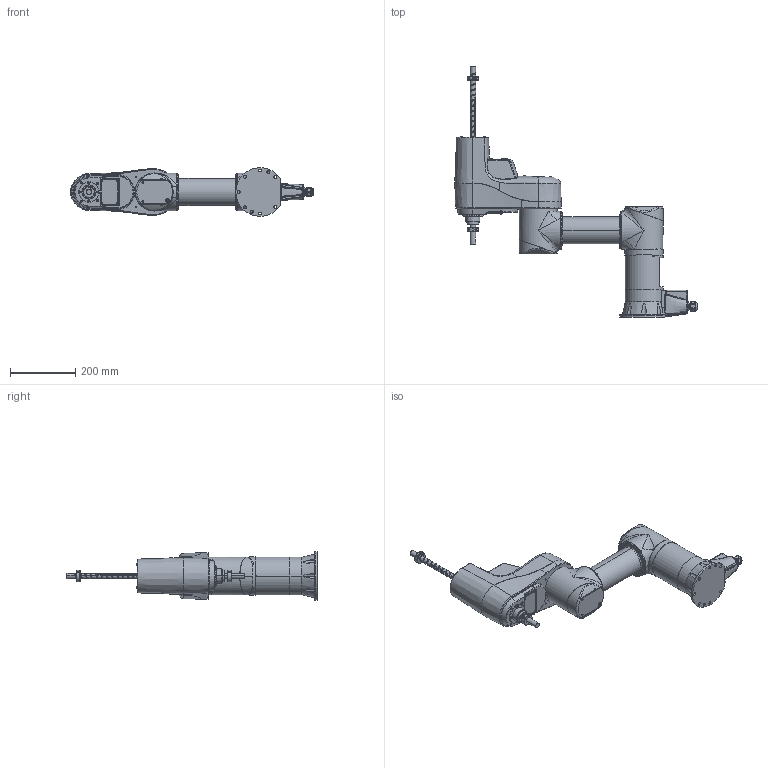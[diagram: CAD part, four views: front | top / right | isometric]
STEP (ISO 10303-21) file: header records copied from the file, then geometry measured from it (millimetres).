
FILE_DESCRIPTION((''),'2;1');
FILE_NAME('ZRB_0452_15A_ASM','2022-12-14T14:13:01',('ChoSeongHee'),(''),'CREO PARAMETRIC BY PTC INC, 2022244','CREO PARAMETRIC BY PTC INC, 2022244','');
FILE_SCHEMA(('CONFIG_CONTROL_DESIGN'));
Products named in the file (5): BASE_ASM; MIDDLE_ASM; TOP_ASM; SCREW_ASM; ZRB_0452_15A_ASM
Assembly tree (4 placements, depth 2):
  ZRB_0452_15A_ASM
    BASE_ASM
    MIDDLE_ASM
    TOP_ASM
    SCREW_ASM
Bounding box: 744.54 x 767.8 x 148.99 mm (x, y, z)
Volume: 12131512.7 mm3; surface area: 620116.6 mm2
Topology: 4 solids, 14 shells, 3791 faces, 9776 edges, 6034 vertices
Faces by surface type: plane 1374, cylinder 1108, cone 714, bspline 395, torus 163, sphere 20, extrusion 17
Entity records: 195165 total; most frequent: CARTESIAN_POINT 109027, ORIENTED_EDGE 19172, DIRECTION 15963, EDGE_CURVE 9586, AXIS2_PLACEMENT_3D 6051, VERTEX_POINT 6034, EDGE_LOOP 4102, VECTOR 3861
